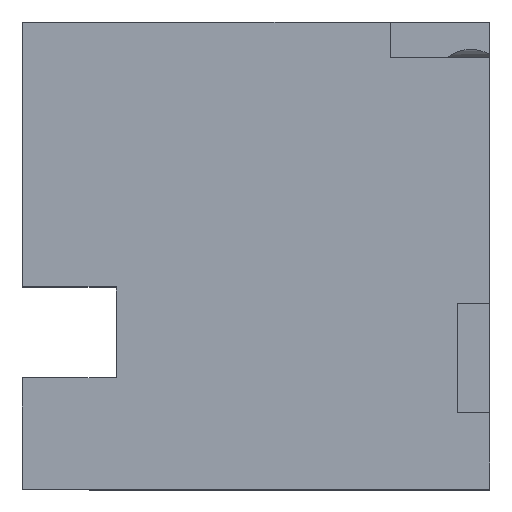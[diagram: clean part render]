
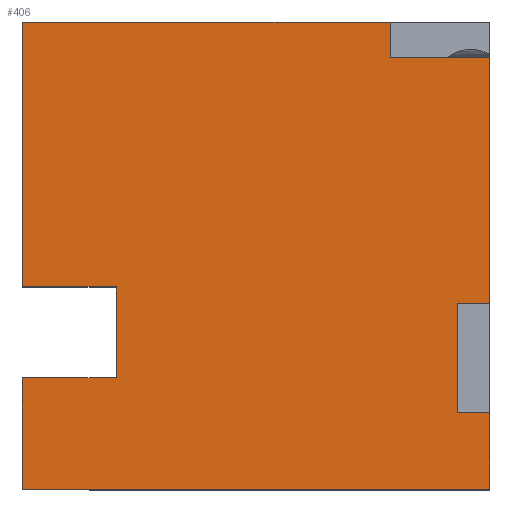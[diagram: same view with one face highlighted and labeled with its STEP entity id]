
A CAD part, top view. The second image highlights one B-rep face of the part: STEP entity #406.
In plain terms, the highlighted planar face has unit normal (0, 0, 1).
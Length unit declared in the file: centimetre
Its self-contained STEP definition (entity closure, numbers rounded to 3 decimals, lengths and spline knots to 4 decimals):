
#4 = DIRECTION ( 'NONE',  ( 1., 0., 0. ) ) ;
#19 = ORIENTED_EDGE ( 'NONE', *, *, #484, .F. ) ;
#33 = AXIS2_PLACEMENT_3D ( 'NONE', #327, #185, #394 ) ;
#42 = CARTESIAN_POINT ( 'NONE',  ( 930.3116, 164.5149, 1000. ) ) ;
#44 = ORIENTED_EDGE ( 'NONE', *, *, #286, .T. ) ;
#48 = LINE ( 'NONE', #704, #859 ) ;
#52 = VECTOR ( 'NONE', #283, 100. ) ;
#70 = LINE ( 'NONE', #717, #52 ) ;
#89 = CARTESIAN_POINT ( 'NONE',  ( 787.3945, 1000., 1000. ) ) ;
#95 = VERTEX_POINT ( 'NONE', #110 ) ;
#96 = CARTESIAN_POINT ( 'NONE',  ( 0., 1000., 1000. ) ) ;
#110 = CARTESIAN_POINT ( 'NONE',  ( 1000., 0., 1000. ) ) ;
#120 = CARTESIAN_POINT ( 'NONE',  ( 787.3945, 924.448, 1000. ) ) ;
#157 = VERTEX_POINT ( 'NONE', #481 ) ;
#179 = EDGE_CURVE ( 'NONE', #440, #755, #855, .T. ) ;
#180 = DIRECTION ( 'NONE',  ( 1., 0., 0. ) ) ;
#184 = VECTOR ( 'NONE', #811, 100. ) ;
#185 = DIRECTION ( 'NONE',  ( 0., 0., 1. ) ) ;
#189 = LINE ( 'NONE', #405, #526 ) ;
#213 = DIRECTION ( 'NONE',  ( -1., 0., 0. ) ) ;
#223 = DIRECTION ( 'NONE',  ( 0., -1., 0. ) ) ;
#225 = ORIENTED_EDGE ( 'NONE', *, *, #853, .T. ) ;
#227 = DIRECTION ( 'NONE',  ( 0., -1., 0. ) ) ;
#235 = VERTEX_POINT ( 'NONE', #385 ) ;
#236 = ORIENTED_EDGE ( 'NONE', *, *, #758, .T. ) ;
#246 = FACE_OUTER_BOUND ( 'NONE', #449, .T. ) ;
#255 = VECTOR ( 'NONE', #180, 100. ) ;
#256 = CARTESIAN_POINT ( 'NONE',  ( 930.3116, 164.5149, 1000. ) ) ;
#259 = LINE ( 'NONE', #829, #255 ) ;
#263 = EDGE_CURVE ( 'NONE', #157, #821, #586, .T. ) ;
#266 = CARTESIAN_POINT ( 'NONE',  ( 787.3945, 924.448, 1000. ) ) ;
#272 = VECTOR ( 'NONE', #4, 100. ) ;
#283 = DIRECTION ( 'NONE',  ( 0., 1., 0. ) ) ;
#286 = EDGE_CURVE ( 'NONE', #95, #517, #656, .T. ) ;
#296 = LINE ( 'NONE', #96, #903 ) ;
#312 = EDGE_CURVE ( 'NONE', #235, #157, #433, .T. ) ;
#313 = CARTESIAN_POINT ( 'NONE',  ( 0., 1000., 1000. ) ) ;
#318 = ORIENTED_EDGE ( 'NONE', *, *, #421, .T. ) ;
#327 = CARTESIAN_POINT ( 'NONE',  ( 0., 0., 1000. ) ) ;
#330 = DIRECTION ( 'NONE',  ( 0., -1., 0. ) ) ;
#332 = DIRECTION ( 'NONE',  ( 1., 0., 0. ) ) ;
#340 = CARTESIAN_POINT ( 'NONE',  ( 0., 1000., 1000. ) ) ;
#359 = VERTEX_POINT ( 'NONE', #539 ) ;
#366 = CARTESIAN_POINT ( 'NONE',  ( 201.0049, 238.4122, 1000. ) ) ;
#368 = ORIENTED_EDGE ( 'NONE', *, *, #525, .T. ) ;
#377 = CARTESIAN_POINT ( 'NONE',  ( 0., 238.4122, 1000. ) ) ;
#385 = CARTESIAN_POINT ( 'NONE',  ( 0., 432.9999, 1000. ) ) ;
#387 = VERTEX_POINT ( 'NONE', #42 ) ;
#394 = DIRECTION ( 'NONE',  ( 1., 0., 0. ) ) ;
#405 = CARTESIAN_POINT ( 'NONE',  ( 0., 1000., 1000. ) ) ;
#406 = ADVANCED_FACE ( 'NONE', ( #246 ), #534, .T. ) ;
#408 = LINE ( 'NONE', #256, #686 ) ;
#419 = EDGE_CURVE ( 'NONE', #387, #517, #48, .T. ) ;
#421 = EDGE_CURVE ( 'NONE', #819, #235, #626, .T. ) ;
#424 = ORIENTED_EDGE ( 'NONE', *, *, #312, .T. ) ;
#433 = LINE ( 'NONE', #652, #272 ) ;
#440 = VERTEX_POINT ( 'NONE', #120 ) ;
#448 = VECTOR ( 'NONE', #920, 100. ) ;
#449 = EDGE_LOOP ( 'NONE', ( #236, #452, #225, #44, #881, #19, #508, #891, #750, #594, #368, #318, #424, #519 ) ) ;
#452 = ORIENTED_EDGE ( 'NONE', *, *, #795, .T. ) ;
#453 = VECTOR ( 'NONE', #683, 100. ) ;
#455 = VERTEX_POINT ( 'NONE', #926 ) ;
#463 = VERTEX_POINT ( 'NONE', #843 ) ;
#481 = CARTESIAN_POINT ( 'NONE',  ( 201.0049, 432.9999, 1000. ) ) ;
#484 = EDGE_CURVE ( 'NONE', #595, #387, #408, .T. ) ;
#486 = VECTOR ( 'NONE', #223, 100. ) ;
#488 = CARTESIAN_POINT ( 'NONE',  ( 930.3116, 398.0065, 1000. ) ) ;
#505 = DIRECTION ( 'NONE',  ( 0., 1., 0. ) ) ;
#508 = ORIENTED_EDGE ( 'NONE', *, *, #723, .F. ) ;
#516 = LINE ( 'NONE', #377, #453 ) ;
#517 = VERTEX_POINT ( 'NONE', #707 ) ;
#519 = ORIENTED_EDGE ( 'NONE', *, *, #263, .T. ) ;
#525 = EDGE_CURVE ( 'NONE', #755, #819, #189, .T. ) ;
#526 = VECTOR ( 'NONE', #632, 100. ) ;
#534 = PLANE ( 'NONE',  #33 ) ;
#539 = CARTESIAN_POINT ( 'NONE',  ( 0., 238.4122, 1000. ) ) ;
#560 = CARTESIAN_POINT ( 'NONE',  ( 1000., 398.0065, 1000. ) ) ;
#566 = VERTEX_POINT ( 'NONE', #560 ) ;
#586 = LINE ( 'NONE', #366, #486 ) ;
#592 = VECTOR ( 'NONE', #213, 100. ) ;
#594 = ORIENTED_EDGE ( 'NONE', *, *, #179, .T. ) ;
#595 = VERTEX_POINT ( 'NONE', #488 ) ;
#626 = LINE ( 'NONE', #340, #448 ) ;
#632 = DIRECTION ( 'NONE',  ( -1., 0., 0. ) ) ;
#633 = DIRECTION ( 'NONE',  ( 0., 1., 0. ) ) ;
#652 = CARTESIAN_POINT ( 'NONE',  ( 0., 432.9999, 1000. ) ) ;
#656 = LINE ( 'NONE', #877, #728 ) ;
#683 = DIRECTION ( 'NONE',  ( -1., 0., 0. ) ) ;
#686 = VECTOR ( 'NONE', #330, 100. ) ;
#689 = EDGE_CURVE ( 'NONE', #566, #455, #70, .T. ) ;
#704 = CARTESIAN_POINT ( 'NONE',  ( 930.3116, 164.5149, 1000. ) ) ;
#707 = CARTESIAN_POINT ( 'NONE',  ( 1000., 164.5149, 1000. ) ) ;
#709 = CARTESIAN_POINT ( 'NONE',  ( 930.3116, 398.0065, 1000. ) ) ;
#717 = CARTESIAN_POINT ( 'NONE',  ( 1000., 1000., 1000. ) ) ;
#721 = LINE ( 'NONE', #709, #592 ) ;
#723 = EDGE_CURVE ( 'NONE', #566, #595, #721, .T. ) ;
#728 = VECTOR ( 'NONE', #505, 100. ) ;
#729 = VECTOR ( 'NONE', #633, 100. ) ;
#744 = CARTESIAN_POINT ( 'NONE',  ( 201.0049, 238.4122, 1000. ) ) ;
#750 = ORIENTED_EDGE ( 'NONE', *, *, #938, .F. ) ;
#755 = VERTEX_POINT ( 'NONE', #89 ) ;
#758 = EDGE_CURVE ( 'NONE', #821, #359, #516, .T. ) ;
#795 = EDGE_CURVE ( 'NONE', #359, #463, #296, .T. ) ;
#799 = CARTESIAN_POINT ( 'NONE',  ( 0., 0., 1000. ) ) ;
#811 = DIRECTION ( 'NONE',  ( 1., 0., 0. ) ) ;
#819 = VERTEX_POINT ( 'NONE', #313 ) ;
#821 = VERTEX_POINT ( 'NONE', #744 ) ;
#829 = CARTESIAN_POINT ( 'NONE',  ( 787.3945, 924.448, 1000. ) ) ;
#843 = CARTESIAN_POINT ( 'NONE',  ( 0., 0., 1000. ) ) ;
#853 = EDGE_CURVE ( 'NONE', #463, #95, #888, .T. ) ;
#855 = LINE ( 'NONE', #266, #729 ) ;
#859 = VECTOR ( 'NONE', #332, 100. ) ;
#877 = CARTESIAN_POINT ( 'NONE',  ( 1000., 1000., 1000. ) ) ;
#881 = ORIENTED_EDGE ( 'NONE', *, *, #419, .F. ) ;
#888 = LINE ( 'NONE', #799, #184 ) ;
#891 = ORIENTED_EDGE ( 'NONE', *, *, #689, .T. ) ;
#903 = VECTOR ( 'NONE', #227, 100. ) ;
#920 = DIRECTION ( 'NONE',  ( 0., -1., 0. ) ) ;
#926 = CARTESIAN_POINT ( 'NONE',  ( 1000., 924.448, 1000. ) ) ;
#938 = EDGE_CURVE ( 'NONE', #440, #455, #259, .T. ) ;
